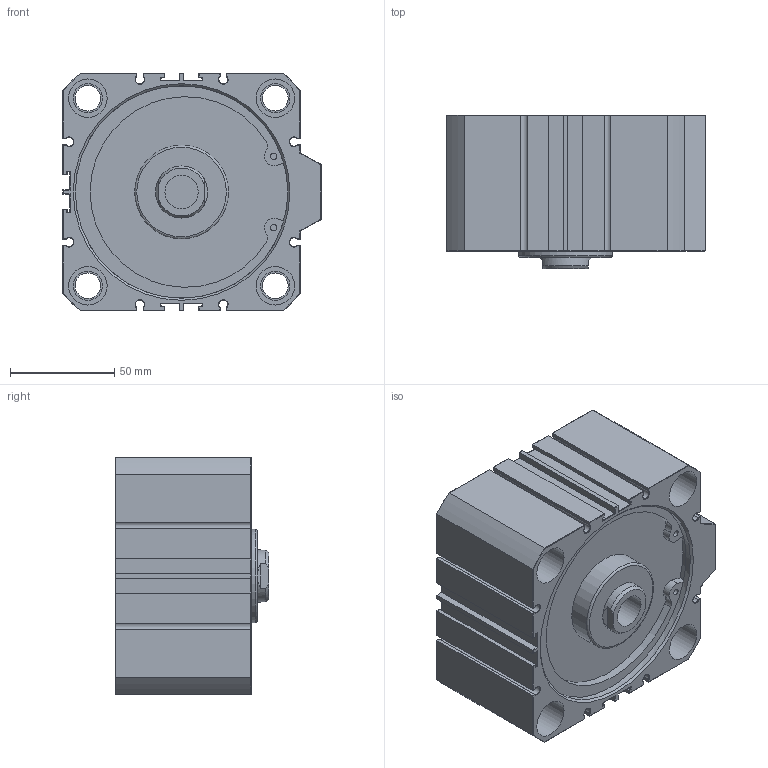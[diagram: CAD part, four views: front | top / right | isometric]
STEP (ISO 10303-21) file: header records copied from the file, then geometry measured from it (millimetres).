
FILE_DESCRIPTION(/* description */ (''),/* implementation_level */ '2;1');
FILE_NAME(/* name */ 'AJC-SD100X20N',/* time_stamp */ '2019-06-14T15:36:18+08:00',/* author */ ('JEFF HUANG'),/* organization */ ('TAIWAN AMAC CLAMP INDUSTRIAL CO., LTD.'),/* preprocessor_version */ 'ST-DEVELOPER v16.7',/* originating_system */ 'DEX',/* authorisation */ $);
FILE_SCHEMA (('AUTOMOTIVE_DESIGN {1 0 10303 214 3 1 1}'));
Length unit declared in the file: millimetre
Products named in the file (1): AJC-SD100X20N
Bounding box: 124 x 73.8 x 114 mm (x, y, z)
Volume: 699907.1 mm3; surface area: 85906.7 mm2
Topology: 1 solids, 1 shells, 383 faces, 856 edges, 471 vertices
Faces by surface type: plane 246, cylinder 73, cone 62, torus 2
Full cylindrical faces by diameter (mm): 3 x4, 12.3 x4, 14 x8, 15.806 x2, 16 x1, 18.5 x8, 45 x1, 55 x1, 102 x2
Entity records: 12551 total; most frequent: DIRECTION 1716, CARTESIAN_POINT 1696, ORIENTED_EDGE 1568, EDGE_CURVE 784, LINE 580, VECTOR 580, AXIS2_PLACEMENT_3D 568, VERTEX_POINT 468
